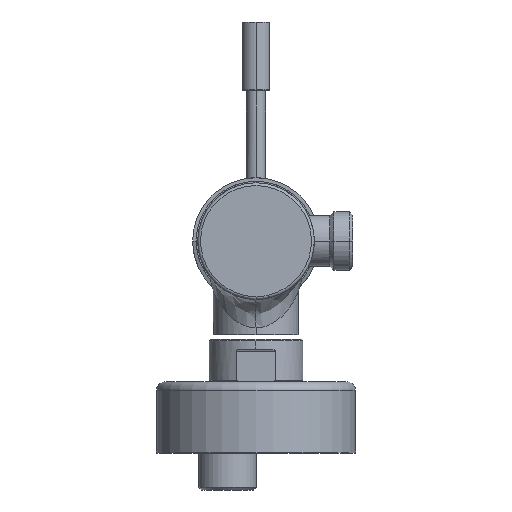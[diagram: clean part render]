
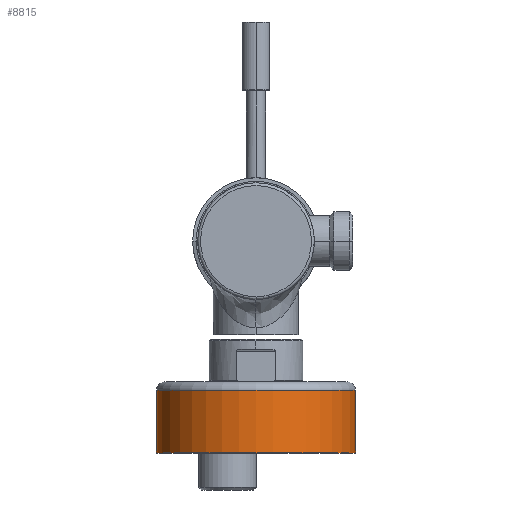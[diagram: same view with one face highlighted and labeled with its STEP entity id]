
A CAD part, left-side view. The second image highlights one B-rep face of the part: STEP entity #8815.
In plain terms, the highlighted cylindrical face has radius 35 mm (diameter 70 mm), a partial arc.
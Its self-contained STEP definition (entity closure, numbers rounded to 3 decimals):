
#8371=DIRECTION('',(0.,0.,-1.));
#8372=VECTOR('',#8371,22.);
#8373=CARTESIAN_POINT('',(-75.,35.,-52.5));
#8374=LINE('',#8373,#8372);
#8375=DIRECTION('',(0.,0.,-1.));
#8376=VECTOR('',#8375,22.);
#8377=CARTESIAN_POINT('',(-75.,-35.,-52.5));
#8378=LINE('',#8377,#8376);
#8384=CARTESIAN_POINT('',(-75.,0.,-52.5));
#8385=DIRECTION('',(0.,0.,1.));
#8386=DIRECTION('',(0.,1.,0.));
#8387=AXIS2_PLACEMENT_3D('',#8384,#8385,#8386);
#8394=CARTESIAN_POINT('',(-75.,0.,-74.5));
#8395=DIRECTION('',(0.,0.,1.));
#8396=DIRECTION('',(0.,1.,0.));
#8397=AXIS2_PLACEMENT_3D('',#8394,#8395,#8396);
#8700=CARTESIAN_POINT('',(-75.,35.,-52.5));
#8702=VERTEX_POINT('',#8700);
#8703=CARTESIAN_POINT('',(-75.,35.,-74.5));
#8704=VERTEX_POINT('',#8703);
#8706=CARTESIAN_POINT('',(-75.,-35.,-52.5));
#8708=VERTEX_POINT('',#8706);
#8709=CARTESIAN_POINT('',(-75.,-35.,-74.5));
#8710=VERTEX_POINT('',#8709);
#8803=CARTESIAN_POINT('',(-75.,0.,-75.75));
#8804=DIRECTION('',(0.,0.,1.));
#8805=DIRECTION('',(0.,-1.,0.));
#8806=AXIS2_PLACEMENT_3D('',#8803,#8804,#8805);
#8807=CYLINDRICAL_SURFACE('',#8806,35.);
#8808=ORIENTED_EDGE('',*,*,#8793,.F.);
#8809=ORIENTED_EDGE('',*,*,#8770,.T.);
#8810=ORIENTED_EDGE('',*,*,#8797,.T.);
#8812=ORIENTED_EDGE('',*,*,#8811,.F.);
#8813=EDGE_LOOP('',(#8808,#8809,#8810,#8812));
#8814=FACE_OUTER_BOUND('',#8813,.F.);
#8815=ADVANCED_FACE('',(#8814),#8807,.T.);
#8388=CIRCLE('',#8387,35.);
#8398=CIRCLE('',#8397,35.);
#8770=EDGE_CURVE('',#8702,#8708,#8388,.T.);
#8793=EDGE_CURVE('',#8702,#8704,#8374,.T.);
#8797=EDGE_CURVE('',#8708,#8710,#8378,.T.);
#8811=EDGE_CURVE('',#8704,#8710,#8398,.T.);
